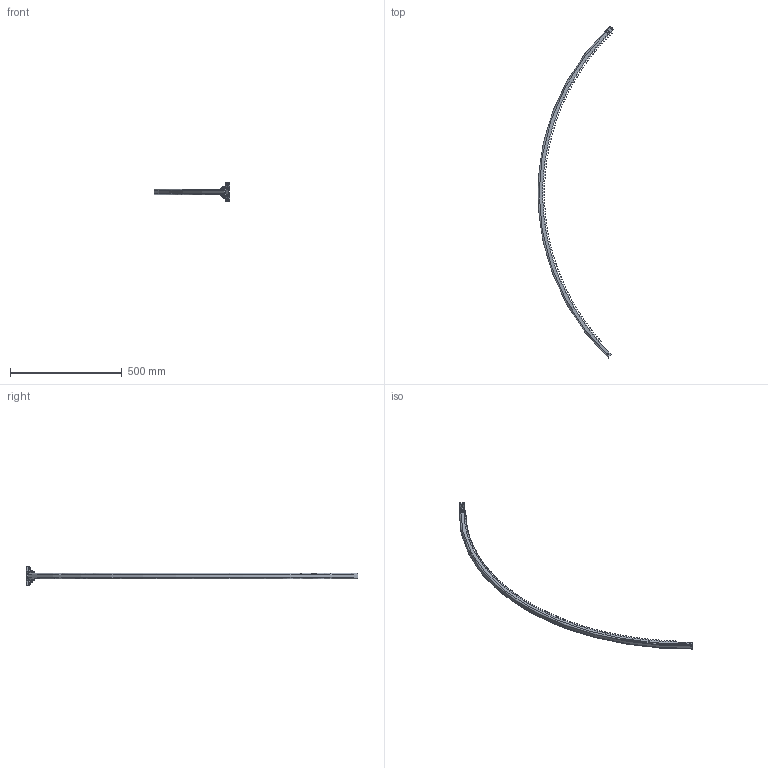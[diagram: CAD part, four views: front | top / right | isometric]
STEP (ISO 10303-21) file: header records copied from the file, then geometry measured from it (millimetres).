
FILE_DESCRIPTION (( 'STEP AP214' ), '1' );
FILE_NAME ('010185369_EZD_3D-Modell_DE_61555.0512.1665_10185369.STEP', '2018-12-11T15:05:34', ( '' ), ( '' ), 'SwSTEP 2.0', 'SolidWorks 2018', '' );
FILE_SCHEMA (( 'AUTOMOTIVE_DESIGN' ));
Length unit declared in the file: millimetre
Products named in the file (6): Montageplatte_10140229_Standard; 010185369_EZD_3D-Modell_DE_61555.0512.1665_10185369; Montageplatte_10148566_Standard; Schraube_10148565_ISO 4017 - M6 x 50-N; Mutter_10001793_Standard; Zahnstange_10146135_Standard
Assembly tree (5 placements, depth 3):
  010185369_EZD_3D-Modell_DE_61555.0512.1665_10185369
    Zahnstange_10146135_Standard
    Montageplatte_10148566_Standard
      Montageplatte_10140229_Standard
      Schraube_10148565_ISO 4017 - M6 x 50-N
      Mutter_10001793_Standard
Bounding box: 337.5 x 1486.17 x 85 mm (x, y, z)
Volume: 342543.7 mm3; surface area: 246140.5 mm2
Topology: 4 solids, 4 shells, 1335 faces, 3944 edges, 2618 vertices
Faces by surface type: plane 1019, cylinder 286, cone 20, torus 10
Entity records: 44534 total; most frequent: CARTESIAN_POINT 8086, ORIENTED_EDGE 7888, DIRECTION 7216, EDGE_CURVE 3944, LINE 3288, VECTOR 3288, VERTEX_POINT 2618, AXIS2_PLACEMENT_3D 1964
